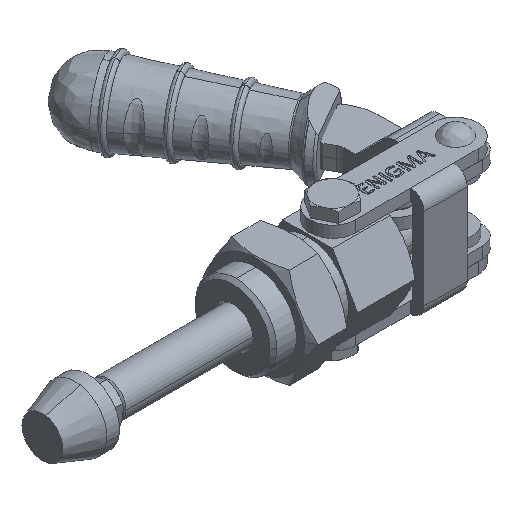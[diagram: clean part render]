
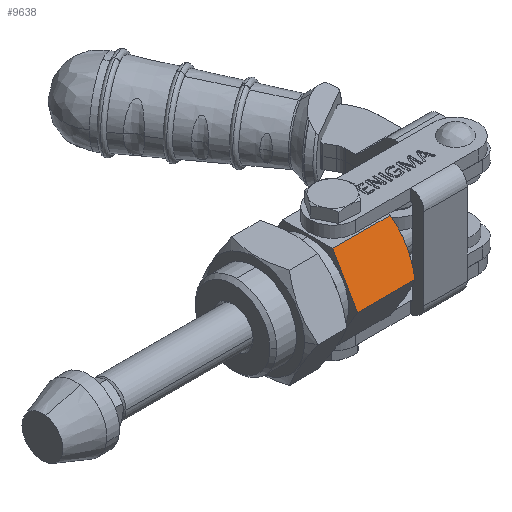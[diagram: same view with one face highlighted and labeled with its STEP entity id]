
A CAD part, isometric view. The second image highlights one B-rep face of the part: STEP entity #9638.
In plain terms, the highlighted planar face has unit normal (0, -0.866, 0.5) as drawn and (0, -0.866, -0.5) by its records, which use the part's own axes.
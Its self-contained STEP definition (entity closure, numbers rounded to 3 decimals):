
#462 = DIRECTION ( 'NONE',  ( 1., 0., 0. ) ) ;
#1427 = ORIENTED_EDGE ( 'NONE', *, *, #14277, .F. ) ;
#1528 = LINE ( 'NONE', #5484, #2053 ) ;
#2053 = VECTOR ( 'NONE', #8630, 1000. ) ;
#2688 = ORIENTED_EDGE ( 'NONE', *, *, #22485, .T. ) ;
#2799 = VERTEX_POINT ( 'NONE', #12216 ) ;
#3295 = ORIENTED_EDGE ( 'NONE', *, *, #6083, .F. ) ;
#3355 = CARTESIAN_POINT ( 'NONE',  ( 0.081, -9.157, -3.14 ) ) ;
#3583 = ORIENTED_EDGE ( 'NONE', *, *, #7504, .F. ) ;
#3902 = CARTESIAN_POINT ( 'NONE',  ( 30., -5.485, -9.5 ) ) ;
#4985 = CARTESIAN_POINT ( 'NONE',  ( 0.849, -10.97, 0. ) ) ;
#5064 = VERTEX_POINT ( 'NONE', #13001 ) ;
#5107 = CARTESIAN_POINT ( 'NONE',  ( 0.377, -6.384, -7.942 ) ) ;
#5331 = CARTESIAN_POINT ( 'NONE',  ( 0.377, -10.07, -1.558 ) ) ;
#5337 = CARTESIAN_POINT ( 'NONE',  ( 0., -7.759, -5.561 ) ) ;
#5484 = CARTESIAN_POINT ( 'NONE',  ( 13.5, -10.97, 0. ) ) ;
#5578 = DIRECTION ( 'NONE',  ( 0., 0.866, 0.5 ) ) ;
#5991 = LINE ( 'NONE', #3902, #8820 ) ;
#6083 = EDGE_CURVE ( 'NONE', #9864, #14618, #16437, .T. ) ;
#6376 = VECTOR ( 'NONE', #462, 1000. ) ;
#6508 = B_SPLINE_CURVE_WITH_KNOTS ( 'NONE', 3,
 ( #21342, #7073, #5107, #8834, #5337, #15845 ),
 .UNSPECIFIED., .F., .F.,
 ( 4, 2, 4 ),
 ( 0., 0.003, 0.006 ),
 .UNSPECIFIED. ) ;
#6658 = EDGE_CURVE ( 'NONE', #20229, #9864, #10712, .T. ) ;
#7073 = CARTESIAN_POINT ( 'NONE',  ( 0.59, -5.933, -8.724 ) ) ;
#7504 = EDGE_CURVE ( 'NONE', #14618, #5064, #1528, .T. ) ;
#8630 = DIRECTION ( 'NONE',  ( 0., 0.5, -0.866 ) ) ;
#8820 = VECTOR ( 'NONE', #9151, 1000. ) ;
#8834 = CARTESIAN_POINT ( 'NONE',  ( 0.081, -7.298, -6.36 ) ) ;
#9151 = DIRECTION ( 'NONE',  ( 1., 0., 0. ) ) ;
#9638 = ADVANCED_FACE ( 'NONE', ( #12936 ), #18517, .F. ) ;
#9864 = VERTEX_POINT ( 'NONE', #15253 ) ;
#10712 = B_SPLINE_CURVE_WITH_KNOTS ( 'NONE', 3,
 ( #21099, #21335, #3355, #5331, #22629, #4985 ),
 .UNSPECIFIED., .F., .F.,
 ( 4, 2, 4 ),
 ( 0., 0.003, 0.006 ),
 .UNSPECIFIED. ) ;
#12216 = CARTESIAN_POINT ( 'NONE',  ( 0.849, -5.485, -9.5 ) ) ;
#12936 = FACE_OUTER_BOUND ( 'NONE', #17452, .T. ) ;
#13001 = CARTESIAN_POINT ( 'NONE',  ( 13.5, -5.485, -9.5 ) ) ;
#13003 = ORIENTED_EDGE ( 'NONE', *, *, #6658, .F. ) ;
#14277 = EDGE_CURVE ( 'NONE', #2799, #20229, #6508, .T. ) ;
#14618 = VERTEX_POINT ( 'NONE', #17940 ) ;
#14696 = DIRECTION ( 'NONE',  ( 0., -0.5, 0.866 ) ) ;
#15253 = CARTESIAN_POINT ( 'NONE',  ( 0.849, -10.97, 0. ) ) ;
#15774 = CARTESIAN_POINT ( 'NONE',  ( 0., -8.227, -4.75 ) ) ;
#15845 = CARTESIAN_POINT ( 'NONE',  ( 0., -8.227, -4.75 ) ) ;
#16437 = LINE ( 'NONE', #21936, #6376 ) ;
#17452 = EDGE_LOOP ( 'NONE', ( #2688, #3583, #3295, #13003, #1427 ) ) ;
#17940 = CARTESIAN_POINT ( 'NONE',  ( 13.5, -10.97, 0. ) ) ;
#18517 = PLANE ( 'NONE',  #21040 ) ;
#20053 = CARTESIAN_POINT ( 'NONE',  ( 30., -10.97, 0. ) ) ;
#20229 = VERTEX_POINT ( 'NONE', #15774 ) ;
#21040 = AXIS2_PLACEMENT_3D ( 'NONE', #20053, #5578, #14696 ) ;
#21099 = CARTESIAN_POINT ( 'NONE',  ( 0., -8.227, -4.75 ) ) ;
#21335 = CARTESIAN_POINT ( 'NONE',  ( 0., -8.695, -3.939 ) ) ;
#21342 = CARTESIAN_POINT ( 'NONE',  ( 0.849, -5.485, -9.5 ) ) ;
#21936 = CARTESIAN_POINT ( 'NONE',  ( 30., -10.97, 0. ) ) ;
#22485 = EDGE_CURVE ( 'NONE', #2799, #5064, #5991, .T. ) ;
#22629 = CARTESIAN_POINT ( 'NONE',  ( 0.59, -10.522, -0.776 ) ) ;
